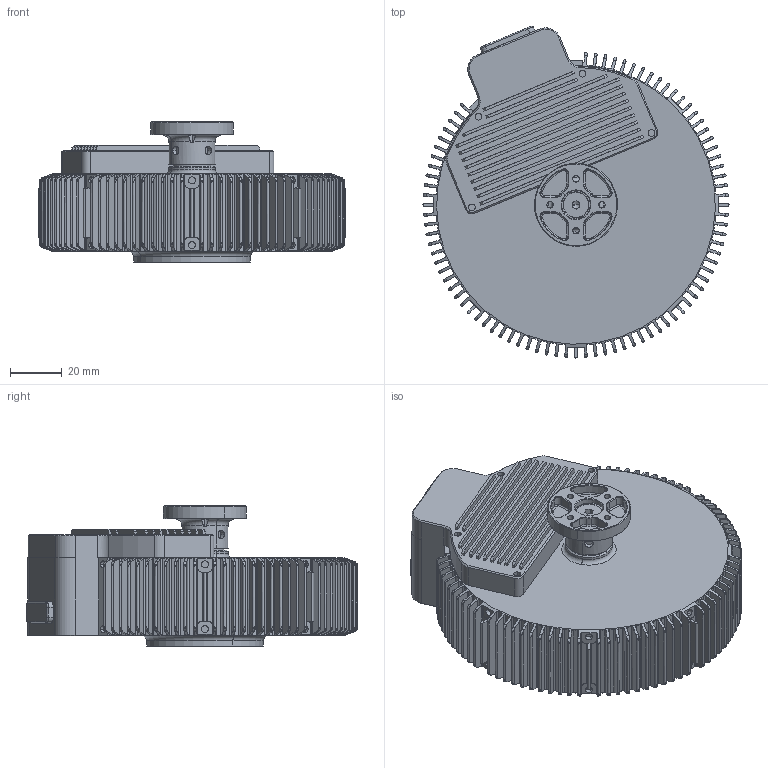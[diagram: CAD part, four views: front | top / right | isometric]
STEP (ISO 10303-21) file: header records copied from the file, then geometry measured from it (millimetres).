
FILE_DESCRIPTION (( 'STEP AP203' ), '1' );
FILE_NAME ('N8-E-ZT.STEP', '2026-04-03T08:39:56', ( '' ), ( '' ), 'SwSTEP 2.0', 'SolidWorks 2020', '' );
FILE_SCHEMA (( 'CONFIG_CONTROL_DESIGN' ));
Products named in the file (1): N8-E-ZT
Bounding box: 118 x 128 x 54 mm (x, y, z)
Volume: 346815.8 mm3; surface area: 63217.4 mm2
Topology: 1 solids, 2 shells, 1367 faces, 3831 edges, 2535 vertices
Faces by surface type: cylinder 590, plane 495, torus 198, cone 84
Entity records: 59526 total; most frequent: CARTESIAN_POINT 26192, ORIENTED_EDGE 7650, DIRECTION 6042, EDGE_CURVE 3825, VERTEX_POINT 2535, AXIS2_PLACEMENT_3D 2298, B_SPLINE_CURVE_WITH_KNOTS 1449, EDGE_LOOP 1448
